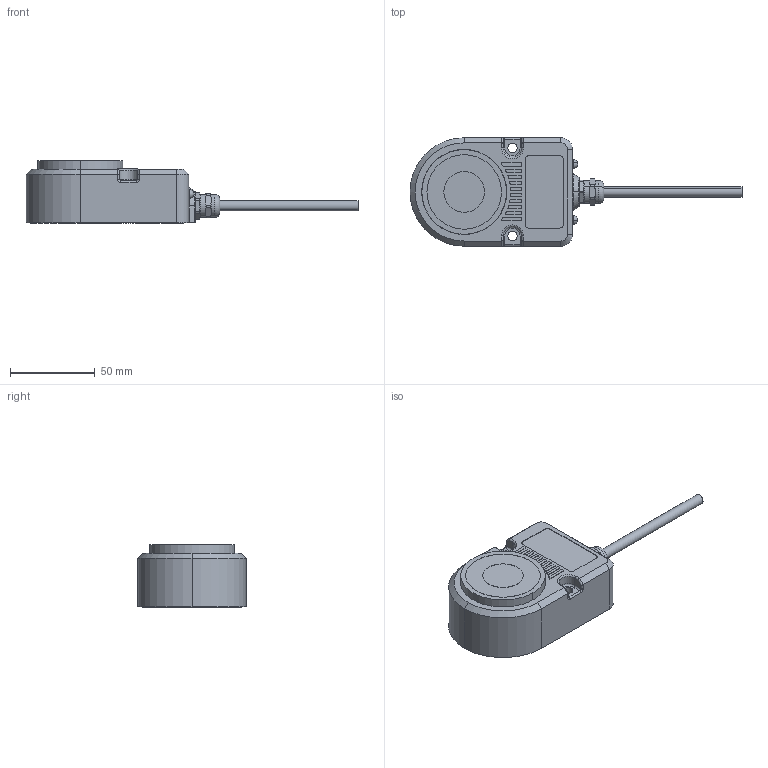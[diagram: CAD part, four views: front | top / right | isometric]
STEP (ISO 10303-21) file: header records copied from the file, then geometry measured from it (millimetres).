
FILE_DESCRIPTION (( 'STEP AP203' ), '1' );
FILE_NAME ('461-Switch MGL-2P (step format).STEP', '2014-07-30T12:06:59', ( '' ), ( '' ), 'SwSTEP 2.0', 'SolidWorks 2013', '' );
FILE_SCHEMA (( 'CONFIG_CONTROL_DESIGN' ));
Length unit declared in the file: millimetre
Products named in the file (1): 461-Switch MGL-2P (step format)
Bounding box: 196 x 64 x 37 mm (x, y, z)
Volume: 116553.4 mm3; surface area: 55320.5 mm2
Topology: 12 solids, 12 shells, 1085 faces, 2642 edges, 1584 vertices
Faces by surface type: cylinder 474, plane 308, torus 161, cone 78, sphere 54, bspline 10
Entity records: 33779 total; most frequent: CARTESIAN_POINT 8111, DIRECTION 5806, ORIENTED_EDGE 5184, EDGE_CURVE 2592, AXIS2_PLACEMENT_3D 2326, VERTEX_POINT 1571, CIRCLE 1250, LINE 1154
